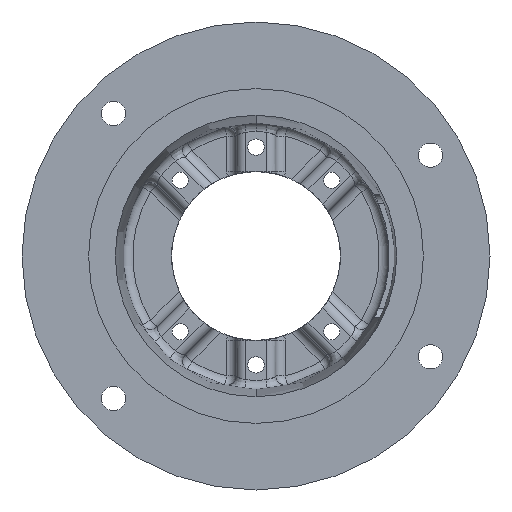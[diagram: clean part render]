
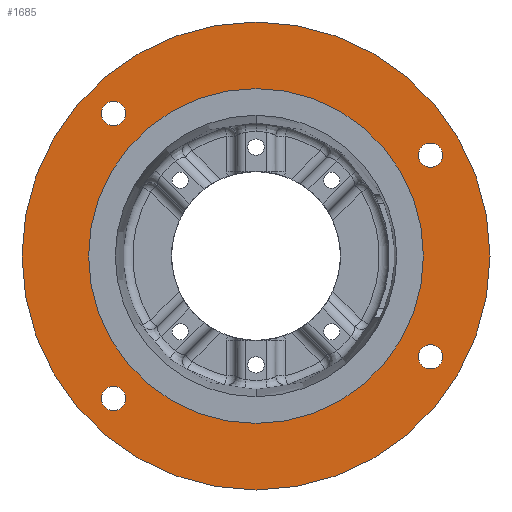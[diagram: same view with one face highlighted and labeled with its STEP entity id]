
A CAD part, front view. The second image highlights one B-rep face of the part: STEP entity #1685.
In plain terms, the highlighted planar face has unit normal (0, -1, 0).
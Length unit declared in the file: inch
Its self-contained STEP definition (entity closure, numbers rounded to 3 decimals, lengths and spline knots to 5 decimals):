
#19 = CARTESIAN_POINT ( 'NONE',  ( 3.35585, 0., 1.70313 ) ) ;
#25 = ORIENTED_EDGE ( 'NONE', *, *, #4643, .F. ) ;
#49 = CARTESIAN_POINT ( 'NONE',  ( 0., 0., 0. ) ) ;
#68 = ORIENTED_EDGE ( 'NONE', *, *, #3533, .F. ) ;
#90 = EDGE_CURVE ( 'NONE', #5231, #5465, #3649, .T. ) ;
#122 = DIRECTION ( 'NONE',  ( 0., 0., -1. ) ) ;
#139 = VERTEX_POINT ( 'NONE', #863 ) ;
#215 = VERTEX_POINT ( 'NONE', #900 ) ;
#233 = ORIENTED_EDGE ( 'NONE', *, *, #5470, .F. ) ;
#321 = DIRECTION ( 'NONE',  ( 0., 0., -1. ) ) ;
#568 = DIRECTION ( 'NONE',  ( 0., 0., -1. ) ) ;
#627 = AXIS2_PLACEMENT_3D ( 'NONE', #2307, #5869, #2837 ) ;
#671 = AXIS2_PLACEMENT_3D ( 'NONE', #1035, #4105, #1056 ) ;
#733 = ORIENTED_EDGE ( 'NONE', *, *, #5972, .F. ) ;
#783 = FACE_BOUND ( 'NONE', #2653, .T. ) ;
#863 = CARTESIAN_POINT ( 'NONE',  ( -2.74004, 0., 2.50566 ) ) ;
#900 = CARTESIAN_POINT ( 'NONE',  ( 0., 0., -3.2195 ) ) ;
#935 = AXIS2_PLACEMENT_3D ( 'NONE', #4390, #1334, #4897 ) ;
#987 = ORIENTED_EDGE ( 'NONE', *, *, #4663, .F. ) ;
#1035 = CARTESIAN_POINT ( 'NONE',  ( -4.5, 0., 0. ) ) ;
#1050 = CARTESIAN_POINT ( 'NONE',  ( -2.74004, 0., -2.74004 ) ) ;
#1056 = DIRECTION ( 'NONE',  ( 0., 0., 1. ) ) ;
#1131 = CARTESIAN_POINT ( 'NONE',  ( 0., 0., 0. ) ) ;
#1155 = CIRCLE ( 'NONE', #3702, 3.2195 ) ;
#1291 = VERTEX_POINT ( 'NONE', #3696 ) ;
#1334 = DIRECTION ( 'NONE',  ( 0., -1., 0. ) ) ;
#1519 = DIRECTION ( 'NONE',  ( 0., -1., 0. ) ) ;
#1552 = DIRECTION ( 'NONE',  ( 0., 0., -1. ) ) ;
#1626 = DIRECTION ( 'NONE',  ( 0., 0., -1. ) ) ;
#1676 = EDGE_CURVE ( 'NONE', #5465, #5231, #2108, .T. ) ;
#1685 = ADVANCED_FACE ( 'NONE', ( #5995, #3788, #783, #4682, #3308, #1939 ), #2554, .F. ) ;
#1686 = AXIS2_PLACEMENT_3D ( 'NONE', #4587, #1519, #5088 ) ;
#1694 = CIRCLE ( 'NONE', #3944, 0.23438 ) ;
#1748 = DIRECTION ( 'NONE',  ( 0., -1., 0. ) ) ;
#1923 = VERTEX_POINT ( 'NONE', #3904 ) ;
#1931 = CIRCLE ( 'NONE', #3178, 0.23438 ) ;
#1939 = FACE_OUTER_BOUND ( 'NONE', #4340, .T. ) ;
#1993 = VERTEX_POINT ( 'NONE', #6053 ) ;
#1996 = ORIENTED_EDGE ( 'NONE', *, *, #4144, .F. ) ;
#2015 = AXIS2_PLACEMENT_3D ( 'NONE', #6374, #3340, #321 ) ;
#2084 = EDGE_LOOP ( 'NONE', ( #1996, #733 ) ) ;
#2108 = CIRCLE ( 'NONE', #6213, 4.5 ) ;
#2246 = VERTEX_POINT ( 'NONE', #4452 ) ;
#2281 = VERTEX_POINT ( 'NONE', #2998 ) ;
#2307 = CARTESIAN_POINT ( 'NONE',  ( 0., 0., 0. ) ) ;
#2411 = CIRCLE ( 'NONE', #2738, 0.23437 ) ;
#2554 = PLANE ( 'NONE',  #671 ) ;
#2653 = EDGE_LOOP ( 'NONE', ( #68, #4724 ) ) ;
#2655 = CARTESIAN_POINT ( 'NONE',  ( -2.74004, 0., 2.74004 ) ) ;
#2658 = ORIENTED_EDGE ( 'NONE', *, *, #90, .T. ) ;
#2737 = CIRCLE ( 'NONE', #6316, 0.23438 ) ;
#2738 = AXIS2_PLACEMENT_3D ( 'NONE', #5894, #2862, #6398 ) ;
#2837 = DIRECTION ( 'NONE',  ( 0., 0., -1. ) ) ;
#2838 = ORIENTED_EDGE ( 'NONE', *, *, #1676, .T. ) ;
#2862 = DIRECTION ( 'NONE',  ( 0., -1., 0. ) ) ;
#2878 = CARTESIAN_POINT ( 'NONE',  ( 3.35585, 0., 1.9375 ) ) ;
#2945 = VERTEX_POINT ( 'NONE', #5540 ) ;
#2998 = CARTESIAN_POINT ( 'NONE',  ( -2.74004, 0., -2.50566 ) ) ;
#3145 = DIRECTION ( 'NONE',  ( 0., -1., 0. ) ) ;
#3167 = DIRECTION ( 'NONE',  ( 0., 0., -1. ) ) ;
#3173 = CARTESIAN_POINT ( 'NONE',  ( -2.74004, 0., -2.97441 ) ) ;
#3178 = AXIS2_PLACEMENT_3D ( 'NONE', #2878, #6412, #3391 ) ;
#3232 = VERTEX_POINT ( 'NONE', #3173 ) ;
#3308 = FACE_BOUND ( 'NONE', #4801, .T. ) ;
#3340 = DIRECTION ( 'NONE',  ( 0., -1., 0. ) ) ;
#3391 = DIRECTION ( 'NONE',  ( 0., 0., -1. ) ) ;
#3533 = EDGE_CURVE ( 'NONE', #3232, #2281, #2411, .T. ) ;
#3574 = EDGE_CURVE ( 'NONE', #5543, #1291, #1931, .T. ) ;
#3584 = DIRECTION ( 'NONE',  ( 0., -1., 0. ) ) ;
#3649 = CIRCLE ( 'NONE', #627, 4.5 ) ;
#3662 = ORIENTED_EDGE ( 'NONE', *, *, #3574, .F. ) ;
#3696 = CARTESIAN_POINT ( 'NONE',  ( 3.35585, 0., 2.17188 ) ) ;
#3702 = AXIS2_PLACEMENT_3D ( 'NONE', #6179, #3145, #122 ) ;
#3784 = EDGE_CURVE ( 'NONE', #1291, #5543, #6530, .T. ) ;
#3788 = FACE_BOUND ( 'NONE', #2084, .T. ) ;
#3904 = CARTESIAN_POINT ( 'NONE',  ( 3.35585, 0., -2.17187 ) ) ;
#3944 = AXIS2_PLACEMENT_3D ( 'NONE', #2655, #6199, #3167 ) ;
#4096 = EDGE_CURVE ( 'NONE', #139, #1993, #1694, .T. ) ;
#4104 = ORIENTED_EDGE ( 'NONE', *, *, #3784, .F. ) ;
#4105 = DIRECTION ( 'NONE',  ( 0., 1., 0. ) ) ;
#4137 = ORIENTED_EDGE ( 'NONE', *, *, #4096, .F. ) ;
#4144 = EDGE_CURVE ( 'NONE', #1923, #2945, #2737, .T. ) ;
#4299 = EDGE_LOOP ( 'NONE', ( #3662, #4104 ) ) ;
#4340 = EDGE_LOOP ( 'NONE', ( #2838, #2658 ) ) ;
#4357 = CARTESIAN_POINT ( 'NONE',  ( 0., 0., -4.5 ) ) ;
#4390 = CARTESIAN_POINT ( 'NONE',  ( -2.74004, 0., 2.74004 ) ) ;
#4452 = CARTESIAN_POINT ( 'NONE',  ( 0., 0., 3.2195 ) ) ;
#4587 = CARTESIAN_POINT ( 'NONE',  ( 3.35585, 0., -1.9375 ) ) ;
#4618 = DIRECTION ( 'NONE',  ( 0., -1., 0. ) ) ;
#4643 = EDGE_CURVE ( 'NONE', #2246, #215, #1155, .T. ) ;
#4663 = EDGE_CURVE ( 'NONE', #215, #2246, #5043, .T. ) ;
#4682 = FACE_BOUND ( 'NONE', #4769, .T. ) ;
#4700 = DIRECTION ( 'NONE',  ( 0., -1., 0. ) ) ;
#4724 = ORIENTED_EDGE ( 'NONE', *, *, #5558, .F. ) ;
#4731 = AXIS2_PLACEMENT_3D ( 'NONE', #1131, #4700, #1626 ) ;
#4769 = EDGE_LOOP ( 'NONE', ( #4137, #233 ) ) ;
#4801 = EDGE_LOOP ( 'NONE', ( #987, #25 ) ) ;
#4818 = CARTESIAN_POINT ( 'NONE',  ( 3.35585, 0., -1.9375 ) ) ;
#4897 = DIRECTION ( 'NONE',  ( 0., 0., -1. ) ) ;
#5019 = AXIS2_PLACEMENT_3D ( 'NONE', #1050, #4618, #1552 ) ;
#5043 = CIRCLE ( 'NONE', #4731, 3.2195 ) ;
#5088 = DIRECTION ( 'NONE',  ( 0., 0., -1. ) ) ;
#5231 = VERTEX_POINT ( 'NONE', #5701 ) ;
#5321 = DIRECTION ( 'NONE',  ( 0., 0., -1. ) ) ;
#5465 = VERTEX_POINT ( 'NONE', #4357 ) ;
#5470 = EDGE_CURVE ( 'NONE', #1993, #139, #6047, .T. ) ;
#5540 = CARTESIAN_POINT ( 'NONE',  ( 3.35585, 0., -1.70312 ) ) ;
#5543 = VERTEX_POINT ( 'NONE', #19 ) ;
#5558 = EDGE_CURVE ( 'NONE', #2281, #3232, #5749, .T. ) ;
#5669 = CIRCLE ( 'NONE', #1686, 0.23438 ) ;
#5701 = CARTESIAN_POINT ( 'NONE',  ( 0., 0., 4.5 ) ) ;
#5749 = CIRCLE ( 'NONE', #5019, 0.23437 ) ;
#5869 = DIRECTION ( 'NONE',  ( 0., -1., 0. ) ) ;
#5894 = CARTESIAN_POINT ( 'NONE',  ( -2.74004, 0., -2.74004 ) ) ;
#5972 = EDGE_CURVE ( 'NONE', #2945, #1923, #5669, .T. ) ;
#5995 = FACE_BOUND ( 'NONE', #4299, .T. ) ;
#6047 = CIRCLE ( 'NONE', #935, 0.23438 ) ;
#6053 = CARTESIAN_POINT ( 'NONE',  ( -2.74004, 0., 2.97441 ) ) ;
#6179 = CARTESIAN_POINT ( 'NONE',  ( 0., 0., 0. ) ) ;
#6199 = DIRECTION ( 'NONE',  ( 0., -1., 0. ) ) ;
#6213 = AXIS2_PLACEMENT_3D ( 'NONE', #49, #3584, #568 ) ;
#6316 = AXIS2_PLACEMENT_3D ( 'NONE', #4818, #1748, #5321 ) ;
#6374 = CARTESIAN_POINT ( 'NONE',  ( 3.35585, 0., 1.9375 ) ) ;
#6398 = DIRECTION ( 'NONE',  ( 0., 0., -1. ) ) ;
#6412 = DIRECTION ( 'NONE',  ( 0., -1., 0. ) ) ;
#6530 = CIRCLE ( 'NONE', #2015, 0.23438 ) ;
